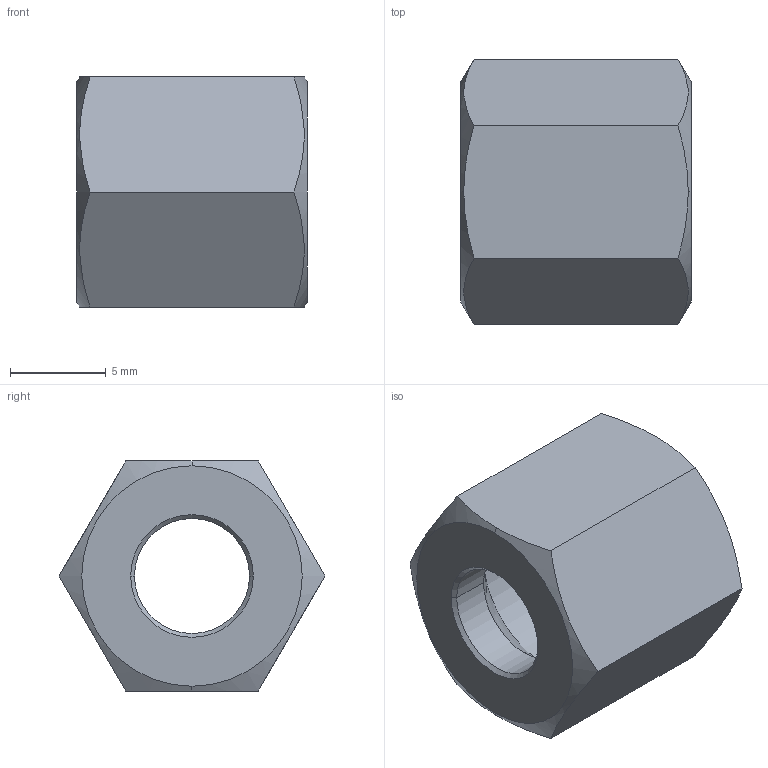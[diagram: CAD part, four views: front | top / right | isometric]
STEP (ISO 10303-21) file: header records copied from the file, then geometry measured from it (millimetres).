
FILE_DESCRIPTION((''),'2;1');
FILE_NAME('100202.stp','2006-03-06T15:12:03',('Dario Falcomer'),('CAST S.p.A.'),'AutoCAD STEP 2000i','AutoCAD 2000i',', , ');
FILE_SCHEMA(('CONFIG_CONTROL_DESIGN'));
Length unit declared in the file: millimetre
Products named in the file (2): 100202.0; CHIAVE_DADI#0
Assembly tree (1 placements, depth 2):
  100202.0
    CHIAVE_DADI#0
Bounding box: 12 x 13.86 x 12 mm (x, y, z)
Volume: 809.9 mm3; surface area: 947.2 mm2
Topology: 1 solids, 1 shells, 22 faces, 52 edges, 32 vertices
Faces by surface type: cone 10, plane 8, cylinder 4
Entity records: 725 total; most frequent: CARTESIAN_POINT 140, ORIENTED_EDGE 104, DIRECTION 100, EDGE_CURVE 52, AXIS2_PLACEMENT_3D 40, VERTEX_POINT 32, EDGE_LOOP 24, FACE_OUTER_BOUND 22
